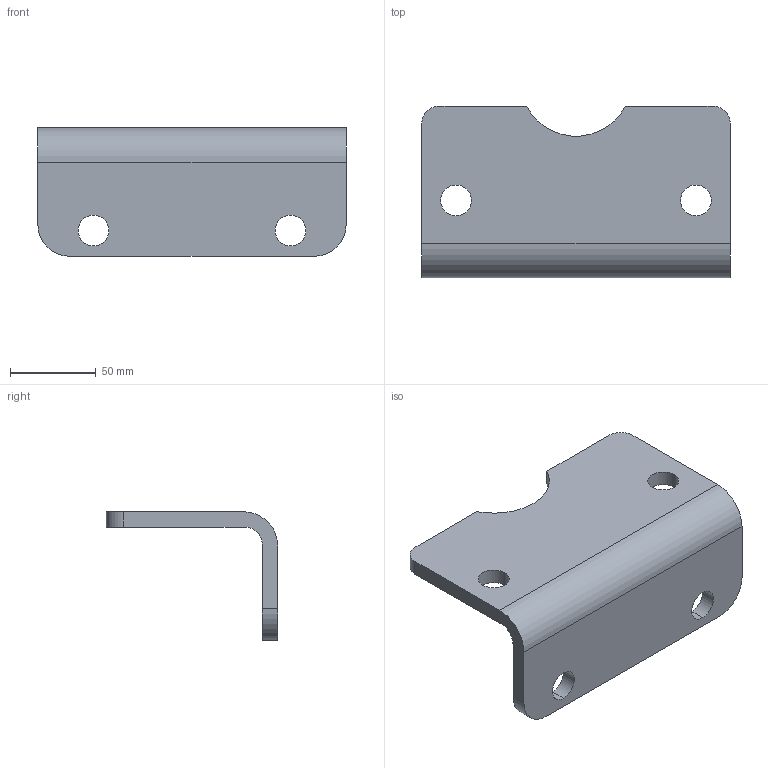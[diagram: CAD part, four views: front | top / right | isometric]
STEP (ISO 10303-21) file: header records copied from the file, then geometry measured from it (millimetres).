
FILE_DESCRIPTION (( 'STEP AP214' ), '1' );
FILE_NAME ('FBI-160.STEP', '2012-11-13T15:26:48', ( '' ), ( '' ), 'SwSTEP 2.0', 'SolidWorks 2009', '' );
FILE_SCHEMA (( 'AUTOMOTIVE_DESIGN' ));
Length unit declared in the file: millimetre
Products named in the file (1): FBI-160
Bounding box: 180 x 100 x 75 mm (x, y, z)
Volume: 239982.6 mm3; surface area: 61621.1 mm2
Topology: 1 solids, 1 shells, 24 faces, 66 edges, 44 vertices
Faces by surface type: cylinder 15, plane 9
Entity records: 830 total; most frequent: DIRECTION 146, CARTESIAN_POINT 135, ORIENTED_EDGE 132, EDGE_CURVE 66, AXIS2_PLACEMENT_3D 55, VERTEX_POINT 44, VECTOR 36, LINE 36
